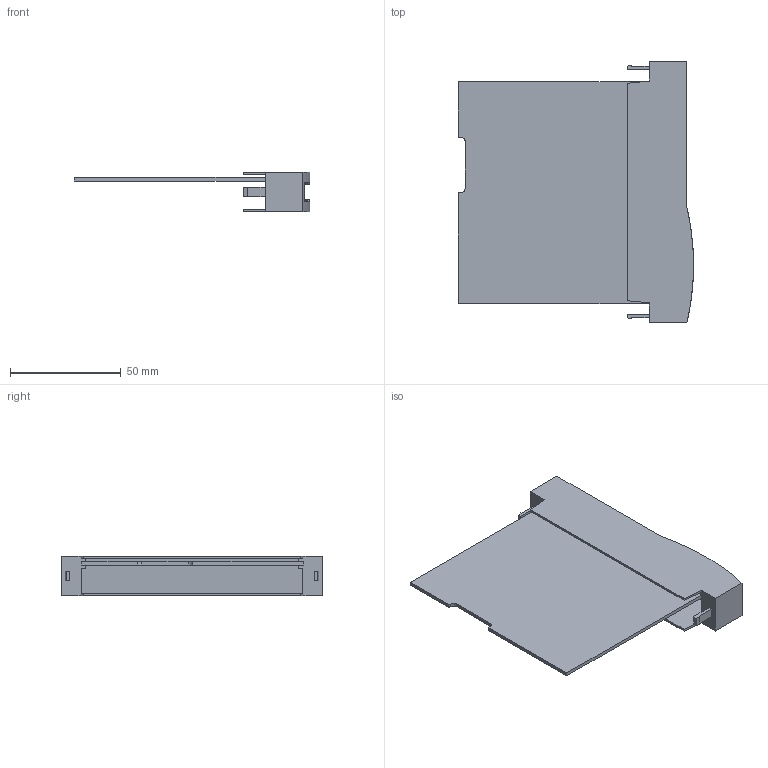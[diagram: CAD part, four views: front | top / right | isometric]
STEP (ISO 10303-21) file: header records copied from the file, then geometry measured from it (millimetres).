
FILE_DESCRIPTION (( 'STEP AP203' ), '1' );
FILE_NAME ('EXCOM-Card.step', '2016-09-08T19:21:19', ( 'Turck User' ), ( '' ), 'SwSTEP 2.0', 'SolidWorks 2015', '' );
FILE_SCHEMA (( 'CONFIG_CONTROL_DESIGN' ));
Length unit declared in the file: millimetre
Products named in the file (2): EXCOM-Card
Bounding box: 106 x 118 x 18 mm (x, y, z)
Volume: 32858.7 mm3; surface area: 37039.2 mm2
Topology: 1 solids, 1 shells, 95 faces, 269 edges, 178 vertices
Faces by surface type: plane 73, cylinder 22
Entity records: 3286 total; most frequent: CARTESIAN_POINT 637, ORIENTED_EDGE 538, DIRECTION 499, EDGE_CURVE 269, LINE 215, VECTOR 215, VERTEX_POINT 178, AXIS2_PLACEMENT_3D 142
